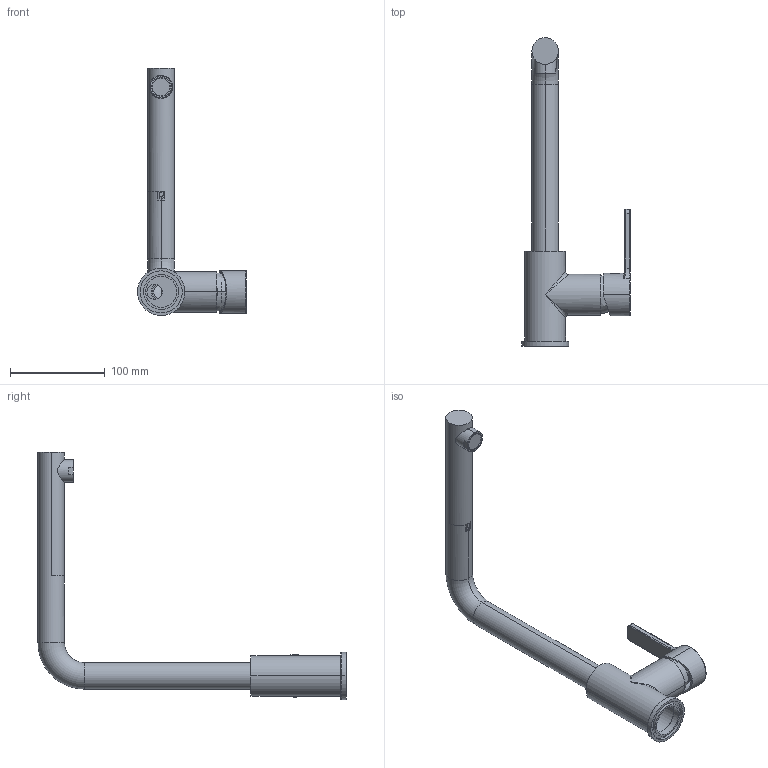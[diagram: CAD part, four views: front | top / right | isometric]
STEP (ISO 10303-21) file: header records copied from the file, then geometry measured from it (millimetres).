
FILE_DESCRIPTION(/* description */ (''),/* implementation_level */ '2;1');
FILE_NAME(/* name */ 'miscelatore mid1cr.stp',/* time_stamp */ '2019-07-19T16:44:19+02:00',/* author */ (''),/* organization */ (''),/* preprocessor_version */ 'ST-DEVELOPER v16',/* originating_system */ 'SIEMENS PLM Software NX 11.0',/* authorisation */ '');
FILE_SCHEMA (('AUTOMOTIVE_DESIGN { 1 0 10303 214 3 1 1 1 }'));
Length unit declared in the file: millimetre
Products named in the file (1): gobb28F8B8BCvq5m
Bounding box: 115.1 x 325.5 x 261 mm (x, y, z)
Volume: 283590.2 mm3; surface area: 125583.1 mm2
Topology: 2 solids, 2 shells, 951 faces, 2472 edges, 1584 vertices
Faces by surface type: plane 615, cylinder 138, bspline 77, torus 60, cone 30, extrusion 23, sphere 8
Entity records: 34248 total; most frequent: CARTESIAN_POINT 11329, ORIENTED_EDGE 4936, DIRECTION 4434, EDGE_CURVE 2468, VECTOR 1772, LINE 1749, VERTEX_POINT 1584, AXIS2_PLACEMENT_3D 1331
